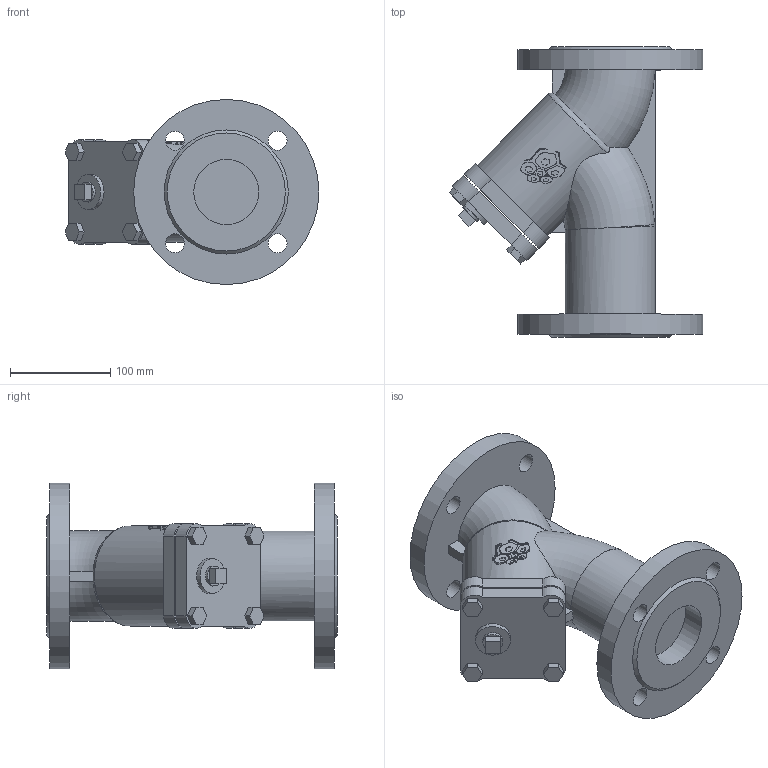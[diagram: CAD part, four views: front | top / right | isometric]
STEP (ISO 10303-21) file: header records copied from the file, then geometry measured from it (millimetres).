
FILE_DESCRIPTION(('STEP AP203'), '1');
FILE_NAME('3D_600_601-065-16_1,2', '', ('UNSPECIFIED'), ('UNSPECIFIED'), 'C3D Converter', 'C3D Toolkit', '');
FILE_SCHEMA(('CONFIG_CONTROL_DESIGN'));
Length unit declared in the file: millimetre
Bounding box: 253.5 x 290 x 185 mm (x, y, z)
Volume: 3386282.7 mm3; surface area: 270675.7 mm2
Topology: 2 solids, 2 shells, 938 faces, 2729 edges, 1821 vertices
Faces by surface type: plane 896, cylinder 34, torus 6, cone 2
Full cylindrical faces by diameter (mm): 19 x8, 20 x1, 35 x1, 65 x2, 100 x1, 185 x2
Entity records: 39623 total; most frequent: CARTESIAN_POINT 9520, ORIENTED_EDGE 5424, DIRECTION 3849, EDGE_CURVE 2712, VERTEX_POINT 1821, LINE 1795, VECTOR 1795, AXIS2_PLACEMENT_3D 1027
